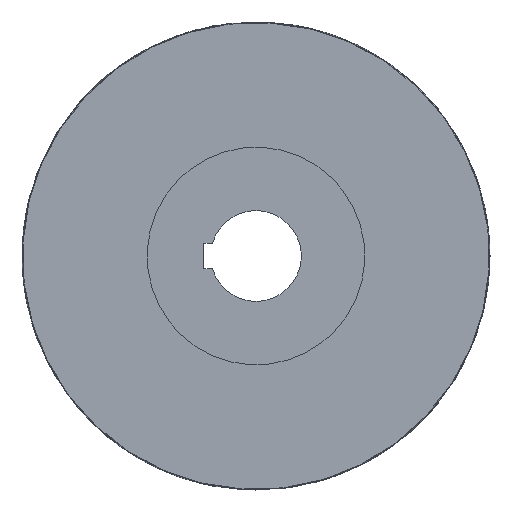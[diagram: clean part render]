
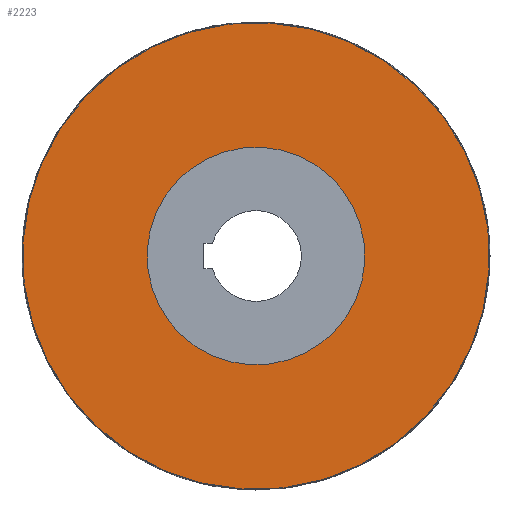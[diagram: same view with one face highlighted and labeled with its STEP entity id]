
A CAD part, left-side view. The second image highlights one B-rep face of the part: STEP entity #2223.
In plain terms, the highlighted planar face has unit normal (-1, 0, 0).
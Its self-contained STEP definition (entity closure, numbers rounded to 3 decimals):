
#2157=CARTESIAN_POINT('',(-112.0,51.03,-118.151));
#2158=VERTEX_POINT('',#2157);
#2159=CARTESIAN_POINT('',(-112.0,0.,0.));
#2160=DIRECTION('',(1.0,0.,0.));
#2161=DIRECTION('',(0.,-0.397,0.918));
#2162=AXIS2_PLACEMENT_3D('',#2159,#2160,#2161);
#2163=CIRCLE('',#2162,128.7);
#2164=EDGE_CURVE('',#2158,#2158,#2163,.T.);
#2204=CARTESIAN_POINT('',(-112.0,37.47,-86.754));
#2205=DIRECTION('',(-1.0,0.0,0.0));
#2206=DIRECTION('',(0.0,0.918,0.397));
#2207=AXIS2_PLACEMENT_3D('',#2204,#2205,#2206);
#2208=PLANE('',#2207);
#2209=ORIENTED_EDGE('',*,*,#2164,.F.);
#2210=EDGE_LOOP('',(#2209));
#2211=FACE_OUTER_BOUND('',#2210,.T.);
#2212=CARTESIAN_POINT('',(-112.,23.79,-55.082));
#2213=VERTEX_POINT('',#2212);
#2214=CARTESIAN_POINT('',(-112.0,0.,0.));
#2215=DIRECTION('',(-1.,0.,0.));
#2216=DIRECTION('',(0.,0.397,-0.918));
#2217=AXIS2_PLACEMENT_3D('',#2214,#2215,#2216);
#2218=CIRCLE('',#2217,60.);
#2219=EDGE_CURVE('',#2213,#2213,#2218,.T.);
#2220=ORIENTED_EDGE('',*,*,#2219,.F.);
#2221=EDGE_LOOP('',(#2220));
#2222=FACE_BOUND('',#2221,.T.);
#2223=ADVANCED_FACE('',(#2211,#2222),#2208,.T.);
